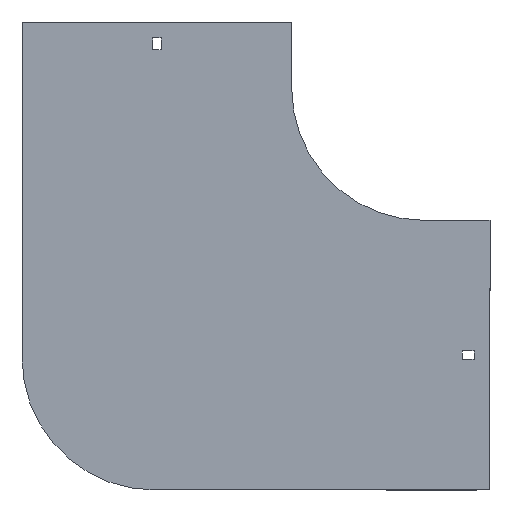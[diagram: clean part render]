
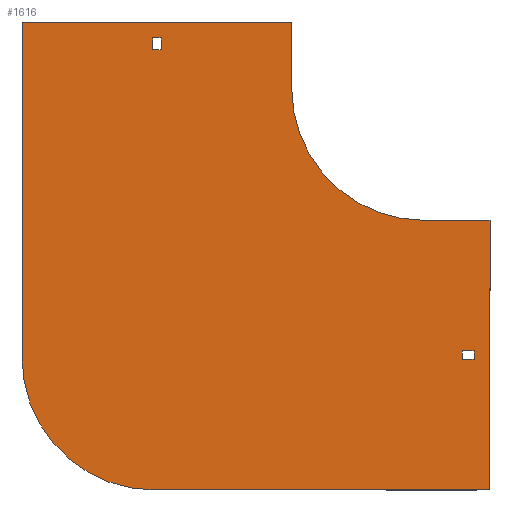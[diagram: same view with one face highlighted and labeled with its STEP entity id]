
A CAD part, front view. The second image highlights one B-rep face of the part: STEP entity #1616.
In plain terms, the highlighted planar face has unit normal (0, -1, 0).
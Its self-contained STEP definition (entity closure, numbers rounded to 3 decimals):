
#8 = ORIENTED_EDGE ( 'NONE', *, *, #1533, .T. ) ;
#12 = LINE ( 'NONE', #1230, #56 ) ;
#25 = VECTOR ( 'NONE', #1572, 1000. ) ;
#31 = EDGE_CURVE ( 'NONE', #1339, #892, #1669, .T. ) ;
#33 = LINE ( 'NONE', #628, #502 ) ;
#41 = VERTEX_POINT ( 'NONE', #585 ) ;
#54 = EDGE_CURVE ( 'NONE', #389, #393, #886, .T. ) ;
#56 = VECTOR ( 'NONE', #172, 1000. ) ;
#73 = ORIENTED_EDGE ( 'NONE', *, *, #544, .F. ) ;
#76 = CARTESIAN_POINT ( 'NONE',  ( 38., 0., -198.75 ) ) ;
#93 = FACE_BOUND ( 'NONE', #1400, .T. ) ;
#120 = AXIS2_PLACEMENT_3D ( 'NONE', #125, #1622, #884 ) ;
#125 = CARTESIAN_POINT ( 'NONE',  ( -204., 0., -204. ) ) ;
#140 = DIRECTION ( 'NONE',  ( 0., 0., 1. ) ) ;
#171 = DIRECTION ( 'NONE',  ( 0., 0., -1. ) ) ;
#172 = DIRECTION ( 'NONE',  ( 1., 0., 0. ) ) ;
#175 = CARTESIAN_POINT ( 'NONE',  ( 0., 0., 0. ) ) ;
#218 = VECTOR ( 'NONE', #454, 1000. ) ;
#251 = EDGE_CURVE ( 'NONE', #1520, #905, #1836, .T. ) ;
#312 = VECTOR ( 'NONE', #140, 1000. ) ;
#320 = CARTESIAN_POINT ( 'NONE',  ( 29., 0., -205.25 ) ) ;
#332 = DIRECTION ( 'NONE',  ( 0., -1., 0. ) ) ;
#333 = CARTESIAN_POINT ( 'NONE',  ( -100., 0., 50. ) ) ;
#342 = EDGE_CURVE ( 'NONE', #859, #1265, #347, .T. ) ;
#347 = LINE ( 'NONE', #1711, #590 ) ;
#359 = ORIENTED_EDGE ( 'NONE', *, *, #1149, .F. ) ;
#364 = DIRECTION ( 'NONE',  ( 1., 0., 0. ) ) ;
#368 = CARTESIAN_POINT ( 'NONE',  ( 50., 0., -100. ) ) ;
#389 = VERTEX_POINT ( 'NONE', #949 ) ;
#393 = VERTEX_POINT ( 'NONE', #983 ) ;
#405 = CARTESIAN_POINT ( 'NONE',  ( -198.75, 0., 29. ) ) ;
#442 = CARTESIAN_POINT ( 'NONE',  ( 29., 0., -198.75 ) ) ;
#454 = DIRECTION ( 'NONE',  ( -1., 0., 0. ) ) ;
#461 = CARTESIAN_POINT ( 'NONE',  ( -204., 0., -304. ) ) ;
#464 = CARTESIAN_POINT ( 'NONE',  ( -304., 0., -204. ) ) ;
#468 = LINE ( 'NONE', #1398, #218 ) ;
#493 = VECTOR ( 'NONE', #1466, 1000. ) ;
#500 = VECTOR ( 'NONE', #624, 1000. ) ;
#502 = VECTOR ( 'NONE', #1211, 1000. ) ;
#544 = EDGE_CURVE ( 'NONE', #1927, #734, #1396, .T. ) ;
#555 = EDGE_LOOP ( 'NONE', ( #1738, #1306, #1896, #1869, #1527, #73, #1298, #1302 ) ) ;
#565 = EDGE_CURVE ( 'NONE', #905, #859, #1513, .T. ) ;
#570 = ORIENTED_EDGE ( 'NONE', *, *, #342, .T. ) ;
#585 = CARTESIAN_POINT ( 'NONE',  ( -100., 0., 50. ) ) ;
#590 = VECTOR ( 'NONE', #1720, 1000. ) ;
#591 = LINE ( 'NONE', #1062, #500 ) ;
#624 = DIRECTION ( 'NONE',  ( -1., 0., 0. ) ) ;
#627 = VERTEX_POINT ( 'NONE', #76 ) ;
#628 = CARTESIAN_POINT ( 'NONE',  ( 38., 0., -205.25 ) ) ;
#630 = CARTESIAN_POINT ( 'NONE',  ( -100., 0., 0. ) ) ;
#641 = VECTOR ( 'NONE', #1405, 1000. ) ;
#644 = CARTESIAN_POINT ( 'NONE',  ( 0., 0., -100. ) ) ;
#658 = EDGE_CURVE ( 'NONE', #734, #1165, #1120, .T. ) ;
#681 = CARTESIAN_POINT ( 'NONE',  ( -205.25, 0., 38. ) ) ;
#693 = PLANE ( 'NONE',  #1004 ) ;
#697 = CARTESIAN_POINT ( 'NONE',  ( -198.75, 0., 29. ) ) ;
#734 = VERTEX_POINT ( 'NONE', #1140 ) ;
#736 = CARTESIAN_POINT ( 'NONE',  ( 0., 0., -100. ) ) ;
#790 = CARTESIAN_POINT ( 'NONE',  ( 0., 0., 0. ) ) ;
#835 = EDGE_CURVE ( 'NONE', #393, #41, #12, .T. ) ;
#859 = VERTEX_POINT ( 'NONE', #681 ) ;
#871 = EDGE_CURVE ( 'NONE', #892, #1179, #1135, .T. ) ;
#884 = DIRECTION ( 'NONE',  ( 0., 0., 1. ) ) ;
#886 = LINE ( 'NONE', #464, #312 ) ;
#891 = DIRECTION ( 'NONE',  ( 0., 0., -1. ) ) ;
#892 = VERTEX_POINT ( 'NONE', #1749 ) ;
#905 = VERTEX_POINT ( 'NONE', #1173 ) ;
#926 = CARTESIAN_POINT ( 'NONE',  ( -198.75, 0., 38. ) ) ;
#949 = CARTESIAN_POINT ( 'NONE',  ( -304., 0., -204. ) ) ;
#970 = VERTEX_POINT ( 'NONE', #461 ) ;
#983 = CARTESIAN_POINT ( 'NONE',  ( -304., 0., 50. ) ) ;
#995 = EDGE_CURVE ( 'NONE', #41, #1717, #1351, .T. ) ;
#1004 = AXIS2_PLACEMENT_3D ( 'NONE', #790, #332, #171 ) ;
#1008 = VECTOR ( 'NONE', #364, 1000. ) ;
#1010 = DIRECTION ( 'NONE',  ( 0., 0., -1. ) ) ;
#1029 = CIRCLE ( 'NONE', #120, 100. ) ;
#1034 = ORIENTED_EDGE ( 'NONE', *, *, #565, .T. ) ;
#1062 = CARTESIAN_POINT ( 'NONE',  ( 29., 0., -198.75 ) ) ;
#1120 = LINE ( 'NONE', #368, #25 ) ;
#1135 = LINE ( 'NONE', #1729, #1008 ) ;
#1140 = CARTESIAN_POINT ( 'NONE',  ( 50., 0., -100. ) ) ;
#1149 = EDGE_CURVE ( 'NONE', #627, #1339, #591, .T. ) ;
#1155 = VECTOR ( 'NONE', #1205, 1000. ) ;
#1165 = VERTEX_POINT ( 'NONE', #1627 ) ;
#1173 = CARTESIAN_POINT ( 'NONE',  ( -205.25, 0., 29. ) ) ;
#1179 = VERTEX_POINT ( 'NONE', #1368 ) ;
#1205 = DIRECTION ( 'NONE',  ( 0., 0., -1. ) ) ;
#1208 = EDGE_CURVE ( 'NONE', #1717, #1927, #1501, .T. ) ;
#1209 = DIRECTION ( 'NONE',  ( 0., -1., 0. ) ) ;
#1211 = DIRECTION ( 'NONE',  ( 0., 0., 1. ) ) ;
#1230 = CARTESIAN_POINT ( 'NONE',  ( -304., 0., 50. ) ) ;
#1234 = VECTOR ( 'NONE', #1369, 1000. ) ;
#1256 = VECTOR ( 'NONE', #1010, 1000. ) ;
#1265 = VERTEX_POINT ( 'NONE', #926 ) ;
#1298 = ORIENTED_EDGE ( 'NONE', *, *, #1208, .F. ) ;
#1302 = ORIENTED_EDGE ( 'NONE', *, *, #995, .F. ) ;
#1306 = ORIENTED_EDGE ( 'NONE', *, *, #54, .F. ) ;
#1310 = ORIENTED_EDGE ( 'NONE', *, *, #1945, .F. ) ;
#1339 = VERTEX_POINT ( 'NONE', #442 ) ;
#1351 = LINE ( 'NONE', #333, #1876 ) ;
#1368 = CARTESIAN_POINT ( 'NONE',  ( 38., 0., -205.25 ) ) ;
#1369 = DIRECTION ( 'NONE',  ( 0., 0., 1. ) ) ;
#1396 = LINE ( 'NONE', #644, #641 ) ;
#1398 = CARTESIAN_POINT ( 'NONE',  ( 50., 0., -304. ) ) ;
#1400 = EDGE_LOOP ( 'NONE', ( #1310, #1730, #1814, #359 ) ) ;
#1405 = DIRECTION ( 'NONE',  ( 1., 0., 0. ) ) ;
#1412 = EDGE_CURVE ( 'NONE', #970, #389, #1029, .T. ) ;
#1442 = FACE_OUTER_BOUND ( 'NONE', #555, .T. ) ;
#1466 = DIRECTION ( 'NONE',  ( -1., 0., 0. ) ) ;
#1467 = AXIS2_PLACEMENT_3D ( 'NONE', #175, #1209, #891 ) ;
#1475 = EDGE_LOOP ( 'NONE', ( #1034, #570, #8, #1914 ) ) ;
#1501 = CIRCLE ( 'NONE', #1467, 100. ) ;
#1513 = LINE ( 'NONE', #1875, #1234 ) ;
#1520 = VERTEX_POINT ( 'NONE', #697 ) ;
#1527 = ORIENTED_EDGE ( 'NONE', *, *, #658, .F. ) ;
#1533 = EDGE_CURVE ( 'NONE', #1265, #1520, #1750, .T. ) ;
#1572 = DIRECTION ( 'NONE',  ( 0., 0., -1. ) ) ;
#1579 = FACE_BOUND ( 'NONE', #1475, .T. ) ;
#1616 = ADVANCED_FACE ( 'NONE', ( #1579, #1442, #93 ), #693, .T. ) ;
#1622 = DIRECTION ( 'NONE',  ( 0., 1., 0. ) ) ;
#1627 = CARTESIAN_POINT ( 'NONE',  ( 50., 0., -304. ) ) ;
#1642 = EDGE_CURVE ( 'NONE', #1165, #970, #468, .T. ) ;
#1669 = LINE ( 'NONE', #320, #1155 ) ;
#1711 = CARTESIAN_POINT ( 'NONE',  ( -205.25, 0., 38. ) ) ;
#1717 = VERTEX_POINT ( 'NONE', #630 ) ;
#1720 = DIRECTION ( 'NONE',  ( 1., 0., 0. ) ) ;
#1729 = CARTESIAN_POINT ( 'NONE',  ( 29., 0., -205.25 ) ) ;
#1730 = ORIENTED_EDGE ( 'NONE', *, *, #871, .F. ) ;
#1738 = ORIENTED_EDGE ( 'NONE', *, *, #835, .F. ) ;
#1749 = CARTESIAN_POINT ( 'NONE',  ( 29., 0., -205.25 ) ) ;
#1750 = LINE ( 'NONE', #405, #1256 ) ;
#1772 = CARTESIAN_POINT ( 'NONE',  ( -205.25, 0., 29. ) ) ;
#1814 = ORIENTED_EDGE ( 'NONE', *, *, #31, .F. ) ;
#1833 = DIRECTION ( 'NONE',  ( 0., 0., -1. ) ) ;
#1836 = LINE ( 'NONE', #1772, #493 ) ;
#1869 = ORIENTED_EDGE ( 'NONE', *, *, #1642, .F. ) ;
#1875 = CARTESIAN_POINT ( 'NONE',  ( -205.25, 0., 29. ) ) ;
#1876 = VECTOR ( 'NONE', #1833, 1000. ) ;
#1896 = ORIENTED_EDGE ( 'NONE', *, *, #1412, .F. ) ;
#1914 = ORIENTED_EDGE ( 'NONE', *, *, #251, .T. ) ;
#1927 = VERTEX_POINT ( 'NONE', #736 ) ;
#1945 = EDGE_CURVE ( 'NONE', #1179, #627, #33, .T. ) ;
